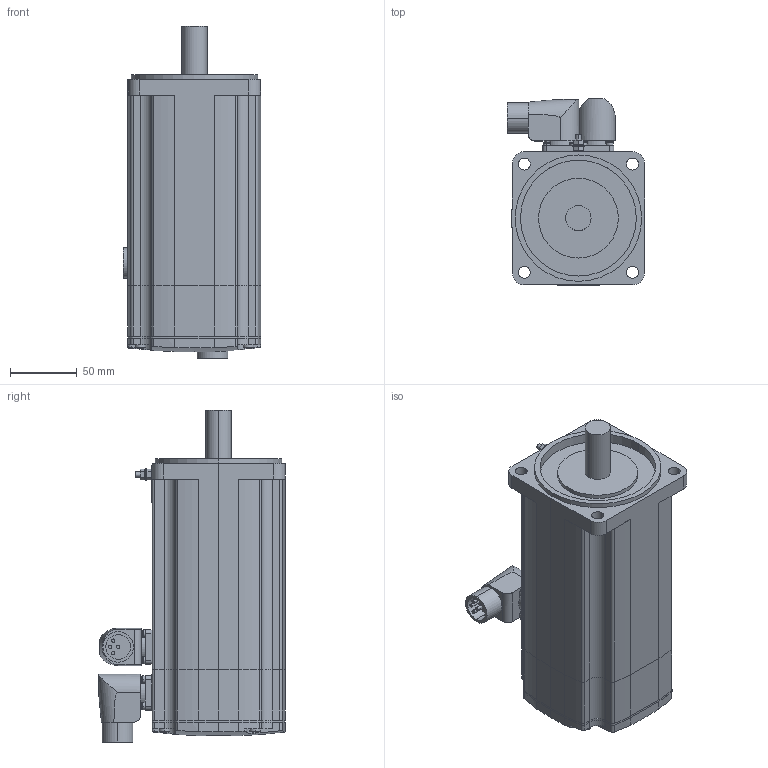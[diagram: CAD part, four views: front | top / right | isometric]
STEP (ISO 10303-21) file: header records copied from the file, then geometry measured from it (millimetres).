
FILE_DESCRIPTION (( 'STEP AP214' ), '1' );
FILE_NAME ('SH31002x0xA2100.STEP', '2013-11-29T09:07:10', ( 'Windows User' ), ( 'Schneider-Electric' ), 'SwSTEP 2.0', 'SolidWorks 2010', '' );
FILE_SCHEMA (( 'AUTOMOTIVE_DESIGN' ));
Length unit declared in the file: millimetre
Products named in the file (8): 1-100005292_DECKEL SH3-100X-X_VM0_Deckel SH3-100x; 1-100010978_K-FLACHDICHTUNG BMH-MH3-100_000; 1-100008869_LAGERSCHILD-SH3-100X-A_VM0_Lagerschild-SH3-100x-A; 1-100008871_TOPFGEHÄUSE-SH3-100X_VM0_TOPFGEHÄUSE BSH1002-A ohne Passfeder; 1-100011011_K-ERDUNGSBOLZEN M4_000; K-POWER-CONINVERS-ABGEWIN_POWER-CONINVERS-ABGEWINKELT_000_ohne Bremse; K-ENCODER-CONINVERS-ABGEW_ENCODER-CONINVERS-ABGEWINKELT_000_Single- MultiTurn; SH31002x0xA2100
Assembly tree (7 placements, depth 2):
  SH31002x0xA2100
    1-100005292_DECKEL SH3-100X-X_VM0_Deckel SH3-100x
    1-100008869_LAGERSCHILD-SH3-100X-A_VM0_Lagerschild-SH3-100x-A
    1-100008871_TOPFGEHÄUSE-SH3-100X_VM0_TOPFGEHÄUSE BSH1002-A ohne Passfeder
    1-100011011_K-ERDUNGSBOLZEN M4_000
    K-POWER-CONINVERS-ABGEWIN_POWER-CONINVERS-ABGEWINKELT_000_ohne Bremse
    K-ENCODER-CONINVERS-ABGEW_ENCODER-CONINVERS-ABGEWINKELT_000_Single- MultiTurn
    1-100010978_K-FLACHDICHTUNG BMH-MH3-100_000
Bounding box: 103.65 x 139.9 x 249.45 mm (x, y, z)
Volume: 1841817 mm3; surface area: 170314.5 mm2
Topology: 7 solids, 7 shells, 434 faces, 1073 edges, 702 vertices
Faces by surface type: cylinder 223, plane 187, torus 16, sphere 4, bspline 4
Entity records: 14442 total; most frequent: CARTESIAN_POINT 3433, DIRECTION 2396, ORIENTED_EDGE 2146, EDGE_CURVE 1073, AXIS2_PLACEMENT_3D 933, VERTEX_POINT 702, LINE 530, VECTOR 530
